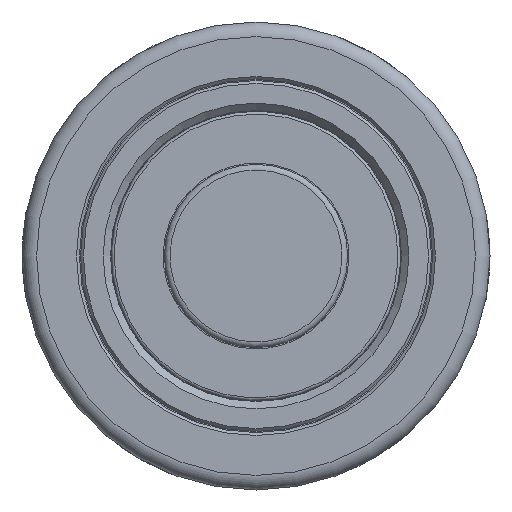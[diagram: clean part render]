
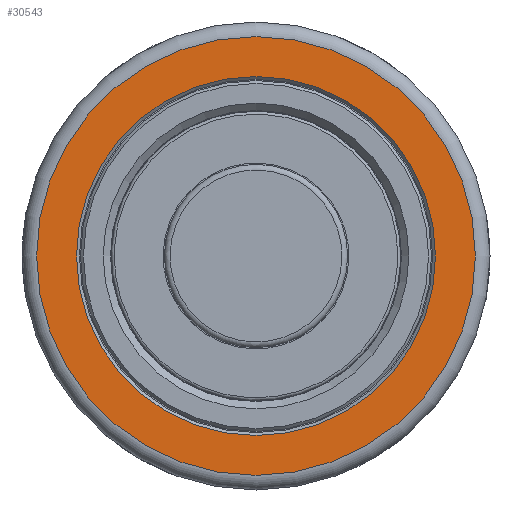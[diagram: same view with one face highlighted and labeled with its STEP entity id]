
A CAD part, front view. The second image highlights one B-rep face of the part: STEP entity #30543.
In plain terms, the highlighted planar face has unit normal (0, -1, 0).
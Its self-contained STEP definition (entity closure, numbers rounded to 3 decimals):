
#5131=FACE_BOUND('',#7769,.T.);
#5334=PLANE('',#32043);
#6122=FACE_OUTER_BOUND('',#7768,.T.);
#7768=EDGE_LOOP('',(#23770));
#7769=EDGE_LOOP('',(#23771));
#12708=CIRCLE('',#32039,15.);
#12712=CIRCLE('',#32044,12.275);
#14074=VERTEX_POINT('',#47575);
#14077=VERTEX_POINT('',#47583);
#17652=EDGE_CURVE('',#14074,#14074,#12708,.T.);
#17656=EDGE_CURVE('',#14077,#14077,#12712,.T.);
#23770=ORIENTED_EDGE('',*,*,#17652,.F.);
#23771=ORIENTED_EDGE('',*,*,#17656,.F.);
#30543=ADVANCED_FACE('',(#6122,#5131),#5334,.T.);
#32039=AXIS2_PLACEMENT_3D('',#47576,#34152,#34153);
#32043=AXIS2_PLACEMENT_3D('',#47582,#34160,#34161);
#32044=AXIS2_PLACEMENT_3D('',#47584,#34162,#34163);
#34152=DIRECTION('center_axis',(0.,1.,0.));
#34153=DIRECTION('ref_axis',(0.,0.,
-1.));
#34160=DIRECTION('center_axis',(0.,-1.,0.));
#34161=DIRECTION('ref_axis',(-1.,0.,0.));
#34162=DIRECTION('center_axis',(0.,-1.,0.));
#34163=DIRECTION('ref_axis',(0.,0.,
-1.));
#47575=CARTESIAN_POINT('',(15.,-24.692,0.));
#47576=CARTESIAN_POINT('Origin',(0.,-24.692,
0.));
#47582=CARTESIAN_POINT('Origin',(0.,-24.692,
12.075));
#47583=CARTESIAN_POINT('',(0.,-24.692,12.275));
#47584=CARTESIAN_POINT('Origin',(0.,-24.692,
0.));
